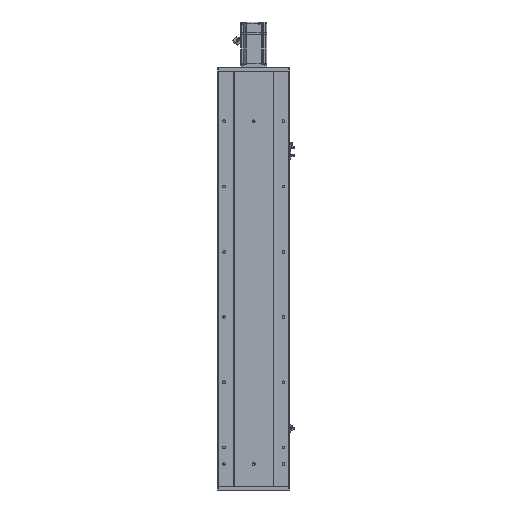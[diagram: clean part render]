
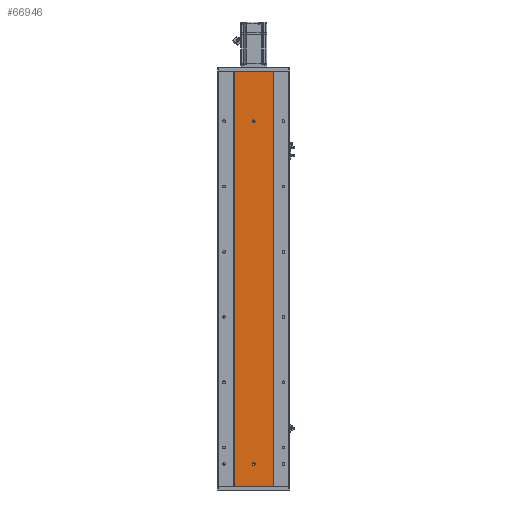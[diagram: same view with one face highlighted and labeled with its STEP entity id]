
A CAD part, front view. The second image highlights one B-rep face of the part: STEP entity #66946.
In plain terms, the highlighted planar face has unit normal (0, -1, 0).
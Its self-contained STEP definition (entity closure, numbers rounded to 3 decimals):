
#212 = EDGE_CURVE ( 'NONE', #14424, #43650, #10690, .T. ) ;
#1711 = DIRECTION ( 'NONE',  ( 0., 0., -1. ) ) ;
#2151 = DIRECTION ( 'NONE',  ( 0., -1., 0. ) ) ;
#2626 = CARTESIAN_POINT ( 'NONE',  ( -60., 0., 1274. ) ) ;
#3542 = DIRECTION ( 'NONE',  ( 0., 0., -1. ) ) ;
#4835 = CARTESIAN_POINT ( 'NONE',  ( -60., 0., 1274. ) ) ;
#5078 = FACE_BOUND ( 'NONE', #15643, .T. ) ;
#6291 = CARTESIAN_POINT ( 'NONE',  ( 0., 0., 1120. ) ) ;
#7686 = CARTESIAN_POINT ( 'NONE',  ( 4., 0., 71.5 ) ) ;
#8152 = DIRECTION ( 'NONE',  ( 0., 0., -1. ) ) ;
#8335 = DIRECTION ( 'NONE',  ( 0., 0., -1. ) ) ;
#9166 = EDGE_CURVE ( 'NONE', #36469, #46820, #11726, .T. ) ;
#9290 = EDGE_CURVE ( 'NONE', #46820, #59524, #34712, .T. ) ;
#9816 = CARTESIAN_POINT ( 'NONE',  ( 0., 0., 1124. ) ) ;
#10176 = VERTEX_POINT ( 'NONE', #28743 ) ;
#10574 = LINE ( 'NONE', #60819, #48433 ) ;
#10690 = LINE ( 'NONE', #36025, #65018 ) ;
#10972 = CARTESIAN_POINT ( 'NONE',  ( 60., 0., 0. ) ) ;
#11726 = CIRCLE ( 'NONE', #60380, 4. ) ;
#11907 = AXIS2_PLACEMENT_3D ( 'NONE', #32424, #32636, #64634 ) ;
#12358 = ORIENTED_EDGE ( 'NONE', *, *, #52710, .F. ) ;
#12574 = VERTEX_POINT ( 'NONE', #10972 ) ;
#13271 = FACE_BOUND ( 'NONE', #34800, .T. ) ;
#13491 = AXIS2_PLACEMENT_3D ( 'NONE', #6291, #37591, #43077 ) ;
#14424 = VERTEX_POINT ( 'NONE', #25524 ) ;
#15234 = DIRECTION ( 'NONE',  ( 0., 0., -1. ) ) ;
#15305 = AXIS2_PLACEMENT_3D ( 'NONE', #28366, #2151, #34308 ) ;
#15571 = EDGE_CURVE ( 'NONE', #58135, #34333, #39813, .T. ) ;
#15643 = EDGE_LOOP ( 'NONE', ( #34684, #32186 ) ) ;
#16536 = LINE ( 'NONE', #2626, #59368 ) ;
#17960 = CIRCLE ( 'NONE', #61069, 4. ) ;
#18551 = CARTESIAN_POINT ( 'NONE',  ( 0., 0., 71.5 ) ) ;
#20277 = VERTEX_POINT ( 'NONE', #47314 ) ;
#21128 = EDGE_CURVE ( 'NONE', #20277, #12574, #24399, .T. ) ;
#23482 = CIRCLE ( 'NONE', #15305, 4. ) ;
#23827 = DIRECTION ( 'NONE',  ( 0., -1., 0. ) ) ;
#24399 = LINE ( 'NONE', #33869, #54832 ) ;
#25323 = ORIENTED_EDGE ( 'NONE', *, *, #42654, .T. ) ;
#25524 = CARTESIAN_POINT ( 'NONE',  ( -60., 0., 1274. ) ) ;
#26879 = CARTESIAN_POINT ( 'NONE',  ( -4., 0., 71.5 ) ) ;
#27338 = AXIS2_PLACEMENT_3D ( 'NONE', #4835, #40923, #67695 ) ;
#28063 = CARTESIAN_POINT ( 'NONE',  ( 4., 0., 71.5 ) ) ;
#28366 = CARTESIAN_POINT ( 'NONE',  ( 0., 0., 68.5 ) ) ;
#28507 = ORIENTED_EDGE ( 'NONE', *, *, #54649, .F. ) ;
#28702 = VERTEX_POINT ( 'NONE', #64031 ) ;
#28743 = CARTESIAN_POINT ( 'NONE',  ( 4., 0., 68.5 ) ) ;
#32186 = ORIENTED_EDGE ( 'NONE', *, *, #46816, .F. ) ;
#32424 = CARTESIAN_POINT ( 'NONE',  ( 0., 0., 1120. ) ) ;
#32636 = DIRECTION ( 'NONE',  ( 0., -1., 0. ) ) ;
#32683 = CIRCLE ( 'NONE', #11907, 4. ) ;
#33869 = CARTESIAN_POINT ( 'NONE',  ( -60., 0., 0. ) ) ;
#34308 = DIRECTION ( 'NONE',  ( 0., 0., -1. ) ) ;
#34333 = VERTEX_POINT ( 'NONE', #9816 ) ;
#34606 = EDGE_CURVE ( 'NONE', #28702, #10176, #23482, .T. ) ;
#34684 = ORIENTED_EDGE ( 'NONE', *, *, #15571, .F. ) ;
#34712 = LINE ( 'NONE', #65419, #41367 ) ;
#34800 = EDGE_LOOP ( 'NONE', ( #59915, #45711, #28507, #48737, #12358 ) ) ;
#35220 = DIRECTION ( 'NONE',  ( 1., 0., 0. ) ) ;
#36025 = CARTESIAN_POINT ( 'NONE',  ( -60., 0., 1274. ) ) ;
#36469 = VERTEX_POINT ( 'NONE', #28063 ) ;
#37072 = LINE ( 'NONE', #7686, #60028 ) ;
#37591 = DIRECTION ( 'NONE',  ( 0., -1., 0. ) ) ;
#37597 = ORIENTED_EDGE ( 'NONE', *, *, #64288, .F. ) ;
#39813 = CIRCLE ( 'NONE', #13491, 4. ) ;
#40923 = DIRECTION ( 'NONE',  ( 0., 1., 0. ) ) ;
#41297 = FACE_OUTER_BOUND ( 'NONE', #52558, .T. ) ;
#41367 = VECTOR ( 'NONE', #1711, 1000. ) ;
#42654 = EDGE_CURVE ( 'NONE', #14424, #20277, #16536, .T. ) ;
#43077 = DIRECTION ( 'NONE',  ( 0., 0., -1. ) ) ;
#43650 = VERTEX_POINT ( 'NONE', #54598 ) ;
#45711 = ORIENTED_EDGE ( 'NONE', *, *, #9166, .F. ) ;
#45778 = ORIENTED_EDGE ( 'NONE', *, *, #21128, .T. ) ;
#46816 = EDGE_CURVE ( 'NONE', #34333, #58135, #32683, .T. ) ;
#46820 = VERTEX_POINT ( 'NONE', #26879 ) ;
#47314 = CARTESIAN_POINT ( 'NONE',  ( -60., 0., 0. ) ) ;
#48025 = CARTESIAN_POINT ( 'NONE',  ( 0., 0., 1116. ) ) ;
#48433 = VECTOR ( 'NONE', #8335, 1000. ) ;
#48737 = ORIENTED_EDGE ( 'NONE', *, *, #34606, .F. ) ;
#52558 = EDGE_LOOP ( 'NONE', ( #45778, #37597, #66502, #25323 ) ) ;
#52710 = EDGE_CURVE ( 'NONE', #59524, #28702, #17960, .T. ) ;
#52941 = CARTESIAN_POINT ( 'NONE',  ( 0., 0., 68.5 ) ) ;
#54598 = CARTESIAN_POINT ( 'NONE',  ( 60., 0., 1274. ) ) ;
#54649 = EDGE_CURVE ( 'NONE', #10176, #36469, #37072, .T. ) ;
#54832 = VECTOR ( 'NONE', #35220, 1000. ) ;
#57777 = DIRECTION ( 'NONE',  ( 0., -1., 0. ) ) ;
#58135 = VERTEX_POINT ( 'NONE', #48025 ) ;
#59287 = DIRECTION ( 'NONE',  ( 0., 0., 1. ) ) ;
#59368 = VECTOR ( 'NONE', #3542, 1000. ) ;
#59524 = VERTEX_POINT ( 'NONE', #64819 ) ;
#59915 = ORIENTED_EDGE ( 'NONE', *, *, #9290, .F. ) ;
#60028 = VECTOR ( 'NONE', #59287, 1000. ) ;
#60380 = AXIS2_PLACEMENT_3D ( 'NONE', #18551, #23827, #8152 ) ;
#60819 = CARTESIAN_POINT ( 'NONE',  ( 60., 0., 1274. ) ) ;
#61069 = AXIS2_PLACEMENT_3D ( 'NONE', #52941, #57777, #15234 ) ;
#64031 = CARTESIAN_POINT ( 'NONE',  ( 0., 0., 64.5 ) ) ;
#64288 = EDGE_CURVE ( 'NONE', #43650, #12574, #10574, .T. ) ;
#64634 = DIRECTION ( 'NONE',  ( 0., 0., -1. ) ) ;
#64819 = CARTESIAN_POINT ( 'NONE',  ( -4., 0., 68.5 ) ) ;
#65018 = VECTOR ( 'NONE', #67107, 1000. ) ;
#65419 = CARTESIAN_POINT ( 'NONE',  ( -4., 0., 71.5 ) ) ;
#66502 = ORIENTED_EDGE ( 'NONE', *, *, #212, .F. ) ;
#66946 = ADVANCED_FACE ( 'NONE', ( #5078, #13271, #41297 ), #67444, .F. ) ;
#67107 = DIRECTION ( 'NONE',  ( 1., 0., 0. ) ) ;
#67444 = PLANE ( 'NONE',  #27338 ) ;
#67695 = DIRECTION ( 'NONE',  ( 0., 0., 1. ) ) ;
